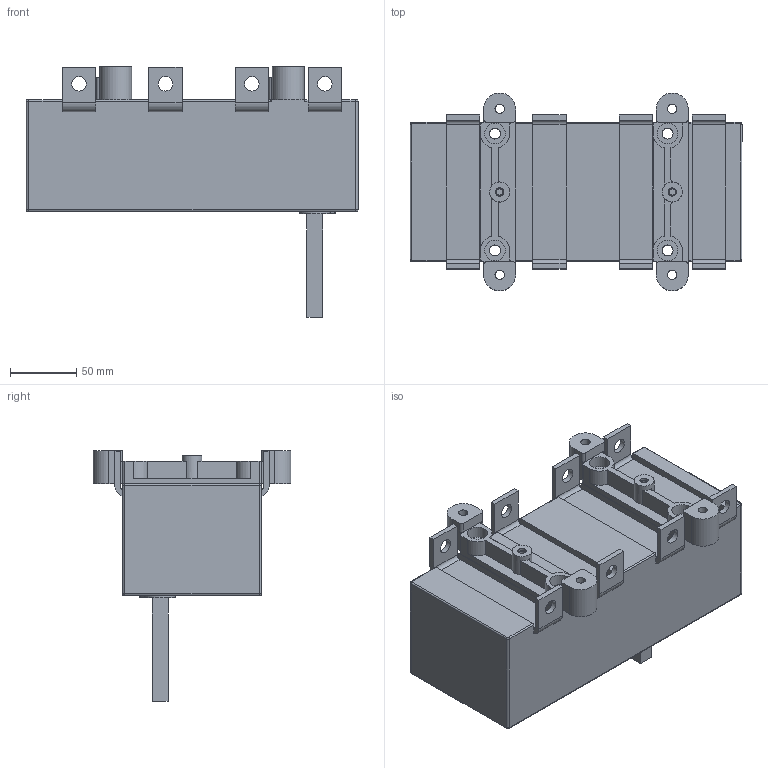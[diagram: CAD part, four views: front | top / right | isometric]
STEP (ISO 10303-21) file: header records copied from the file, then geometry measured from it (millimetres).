
FILE_DESCRIPTION(/* description */ (''),/* implementation_level */ '2;1');
FILE_NAME(/* name */ 'RA400 P3 NC.stp',/* time_stamp */ '2021-08-18T14:24:02+02:00',/* author */ (''),/* organization */ (''),/* preprocessor_version */ 'ST-DEVELOPER v18.1',/* originating_system */ 'SIEMENS PLM Software NX 1965',/* authorisation */ '');
FILE_SCHEMA (('AUTOMOTIVE_DESIGN { 1 0 10303 214 3 1 1 1 }'));
Length unit declared in the file: millimetre
Products named in the file (1): RA400 P3 NC
Bounding box: 250 x 149 x 189 mm (x, y, z)
Volume: 2250289.3 mm3; surface area: 166944.8 mm2
Topology: 1 solids, 1 shells, 240 faces, 638 edges, 417 vertices
Faces by surface type: plane 128, cylinder 104, bspline 8
Full cylindrical faces by diameter (mm): 4.8 x2, 6.2 x2, 7 x4, 8.2 x4, 11 x8, 14 x4, 15 x2, 15.5 x4
Entity records: 7524 total; most frequent: CARTESIAN_POINT 1408, DIRECTION 1306, ORIENTED_EDGE 1208, EDGE_CURVE 604, AXIS2_PLACEMENT_3D 471, VERTEX_POINT 410, LINE 364, VECTOR 364
